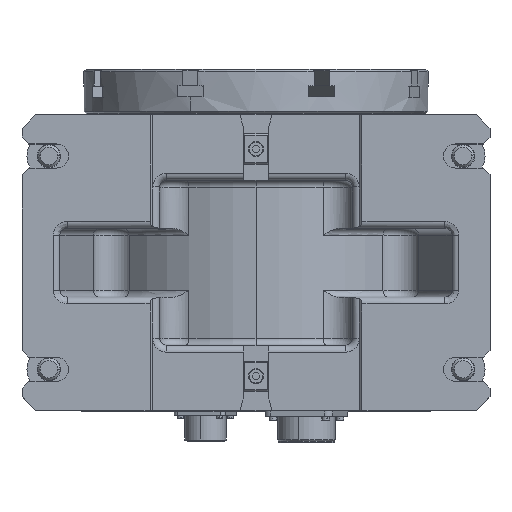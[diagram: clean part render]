
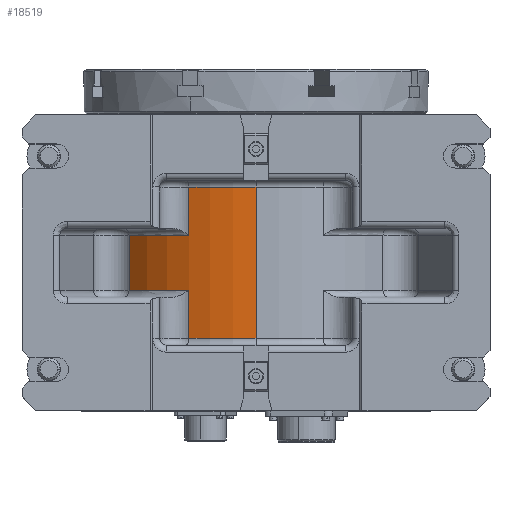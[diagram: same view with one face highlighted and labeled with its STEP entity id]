
A CAD part, top view. The second image highlights one B-rep face of the part: STEP entity #18519.
In plain terms, the highlighted cylindrical face has radius 119 mm (diameter 238 mm), a partial arc.
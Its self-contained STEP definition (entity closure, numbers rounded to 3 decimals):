
#651 = CARTESIAN_POINT ( 'NONE',  ( 0., -20., 0. ) ) ;
#1189 = DIRECTION ( 'NONE',  ( 0., -1., 0. ) ) ;
#4838 = VERTEX_POINT ( 'NONE', #70897 ) ;
#5631 = VECTOR ( 'NONE', #71092, 1000. ) ;
#6321 = VERTEX_POINT ( 'NONE', #74260 ) ;
#7059 = LINE ( 'NONE', #41403, #62680 ) ;
#9136 = ORIENTED_EDGE ( 'NONE', *, *, #108017, .T. ) ;
#9475 = CARTESIAN_POINT ( 'NONE',  ( -48.843, -60., 108.514 ) ) ;
#10020 = VECTOR ( 'NONE', #84596, 1000. ) ;
#10039 = EDGE_CURVE ( 'NONE', #6321, #63226, #32491, .T. ) ;
#10319 = VERTEX_POINT ( 'NONE', #53611 ) ;
#12978 = CIRCLE ( 'NONE', #34219, 119. ) ;
#14303 = CARTESIAN_POINT ( 'NONE',  ( -48.843, -55., 108.514 ) ) ;
#14521 = DIRECTION ( 'NONE',  ( 0., 1., 0. ) ) ;
#18342 = DIRECTION ( 'NONE',  ( 0., 0., 1. ) ) ;
#18519 = ADVANCED_FACE ( 'NONE', ( #102183 ), #66634, .T. ) ;
#20652 = CARTESIAN_POINT ( 'NONE',  ( 0., -55., 119. ) ) ;
#21697 = CIRCLE ( 'NONE', #108807, 119. ) ;
#23372 = DIRECTION ( 'NONE',  ( 0., 0., 1. ) ) ;
#24062 = AXIS2_PLACEMENT_3D ( 'NONE', #38424, #73567, #72444 ) ;
#24265 = DIRECTION ( 'NONE',  ( 0., 1., 0. ) ) ;
#24635 = AXIS2_PLACEMENT_3D ( 'NONE', #100570, #24265, #58156 ) ;
#24641 = EDGE_CURVE ( 'NONE', #4838, #6321, #21697, .T. ) ;
#29523 = DIRECTION ( 'NONE',  ( 0., 0., 1. ) ) ;
#31675 = CARTESIAN_POINT ( 'NONE',  ( -48.843, 55., 108.514 ) ) ;
#32491 = LINE ( 'NONE', #66525, #64854 ) ;
#34219 = AXIS2_PLACEMENT_3D ( 'NONE', #95685, #1189, #18342 ) ;
#34845 = VERTEX_POINT ( 'NONE', #20652 ) ;
#34944 = EDGE_CURVE ( 'NONE', #83271, #38893, #97038, .T. ) ;
#36796 = CARTESIAN_POINT ( 'NONE',  ( -92.227, 20., 75.201 ) ) ;
#38424 = CARTESIAN_POINT ( 'NONE',  ( 0., 20., 0. ) ) ;
#38893 = VERTEX_POINT ( 'NONE', #36796 ) ;
#39885 = ORIENTED_EDGE ( 'NONE', *, *, #42021, .T. ) ;
#40855 = DIRECTION ( 'NONE',  ( 0., -1., 0. ) ) ;
#41403 = CARTESIAN_POINT ( 'NONE',  ( -92.227, -60., 75.201 ) ) ;
#42021 = EDGE_CURVE ( 'NONE', #34845, #10319, #54204, .T. ) ;
#49150 = CIRCLE ( 'NONE', #59803, 119. ) ;
#50319 = CARTESIAN_POINT ( 'NONE',  ( -48.843, 20., 108.514 ) ) ;
#50501 = LINE ( 'NONE', #9475, #10020 ) ;
#51403 = EDGE_CURVE ( 'NONE', #98322, #83271, #50501, .T. ) ;
#53611 = CARTESIAN_POINT ( 'NONE',  ( 0., 55., 119. ) ) ;
#54204 = LINE ( 'NONE', #103908, #5631 ) ;
#55423 = ORIENTED_EDGE ( 'NONE', *, *, #10039, .T. ) ;
#58156 = DIRECTION ( 'NONE',  ( 0., 0., 1. ) ) ;
#59803 = AXIS2_PLACEMENT_3D ( 'NONE', #62944, #14521, #29523 ) ;
#62680 = VECTOR ( 'NONE', #40855, 1000. ) ;
#62944 = CARTESIAN_POINT ( 'NONE',  ( 0., -55., 0. ) ) ;
#63226 = VERTEX_POINT ( 'NONE', #14303 ) ;
#63946 = EDGE_LOOP ( 'NONE', ( #9136, #39885, #65794, #91072, #106645, #88039, #79126, #55423 ) ) ;
#64854 = VECTOR ( 'NONE', #100449, 1000. ) ;
#65794 = ORIENTED_EDGE ( 'NONE', *, *, #108186, .T. ) ;
#66525 = CARTESIAN_POINT ( 'NONE',  ( -48.843, -60., 108.514 ) ) ;
#66634 = CYLINDRICAL_SURFACE ( 'NONE', #24635, 119. ) ;
#70897 = CARTESIAN_POINT ( 'NONE',  ( -92.227, -20., 75.201 ) ) ;
#71092 = DIRECTION ( 'NONE',  ( 0., 1., 0. ) ) ;
#72444 = DIRECTION ( 'NONE',  ( 0., 0., 1. ) ) ;
#73567 = DIRECTION ( 'NONE',  ( 0., -1., 0. ) ) ;
#74260 = CARTESIAN_POINT ( 'NONE',  ( -48.843, -20., 108.514 ) ) ;
#79126 = ORIENTED_EDGE ( 'NONE', *, *, #24641, .T. ) ;
#83271 = VERTEX_POINT ( 'NONE', #50319 ) ;
#84596 = DIRECTION ( 'NONE',  ( 0., -1., 0. ) ) ;
#88039 = ORIENTED_EDGE ( 'NONE', *, *, #92873, .T. ) ;
#91072 = ORIENTED_EDGE ( 'NONE', *, *, #51403, .T. ) ;
#92873 = EDGE_CURVE ( 'NONE', #38893, #4838, #7059, .T. ) ;
#95685 = CARTESIAN_POINT ( 'NONE',  ( 0., 55., 0. ) ) ;
#97038 = CIRCLE ( 'NONE', #24062, 119. ) ;
#98322 = VERTEX_POINT ( 'NONE', #31675 ) ;
#99664 = DIRECTION ( 'NONE',  ( 0., 1., 0. ) ) ;
#100449 = DIRECTION ( 'NONE',  ( 0., -1., 0. ) ) ;
#100570 = CARTESIAN_POINT ( 'NONE',  ( 0., -60., 0. ) ) ;
#102183 = FACE_OUTER_BOUND ( 'NONE', #63946, .T. ) ;
#103908 = CARTESIAN_POINT ( 'NONE',  ( 0., -60., 119. ) ) ;
#106645 = ORIENTED_EDGE ( 'NONE', *, *, #34944, .T. ) ;
#108017 = EDGE_CURVE ( 'NONE', #63226, #34845, #49150, .T. ) ;
#108186 = EDGE_CURVE ( 'NONE', #10319, #98322, #12978, .T. ) ;
#108807 = AXIS2_PLACEMENT_3D ( 'NONE', #651, #99664, #23372 ) ;
